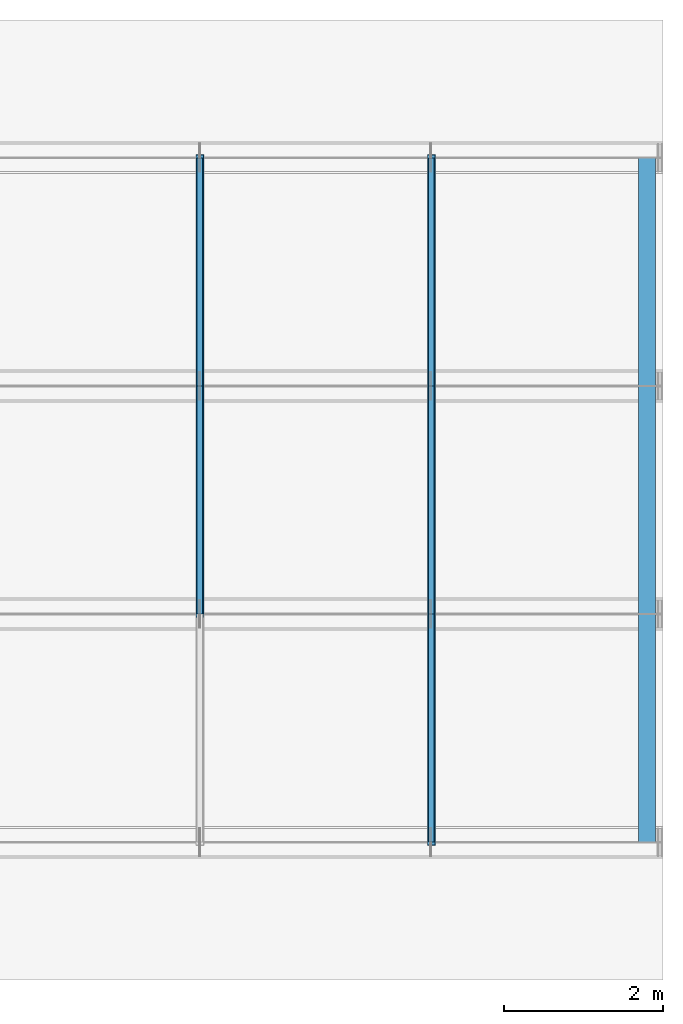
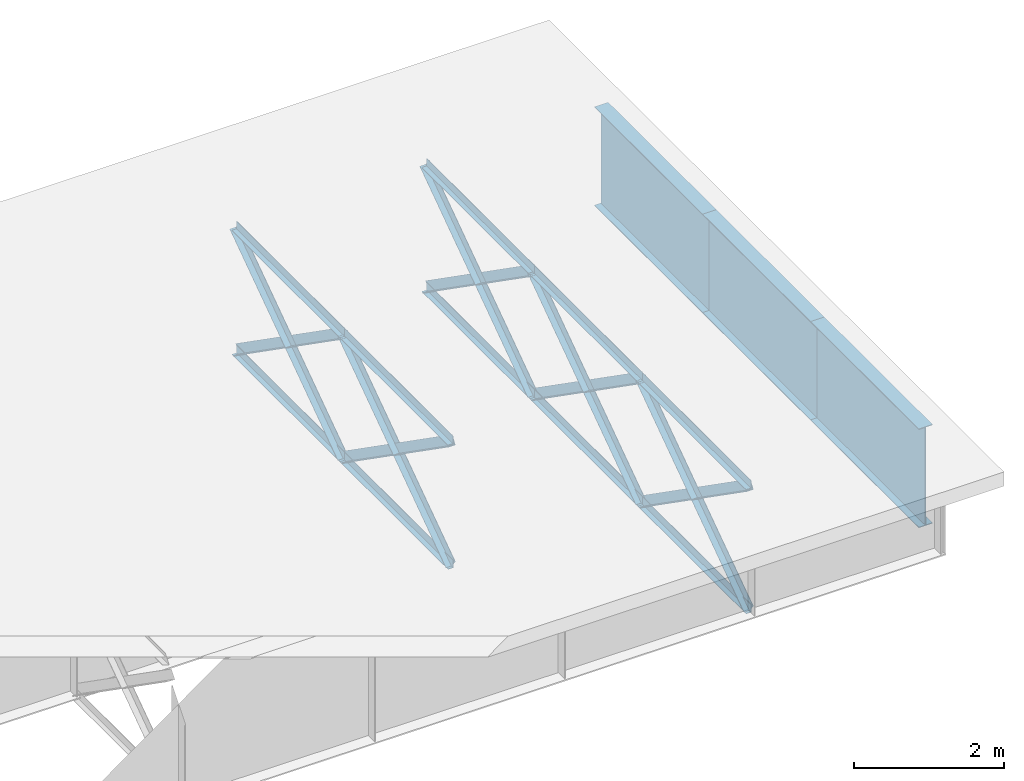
# One storey, part 2 of 13: 23 members.
"""IFC4 building model written with IfcOpenShell, lengths in metres."""

from ifc_helpers import new_model, si_unit, frame, origin, origin_with_axes, origin_2d_with_axis, place, context, subcontext, project, spatial, i_section, l_section, extrude, element, save


model = new_model("IFC4")

# Units and contexts
model_context = context("Model", 3, precision=1e-05, world=origin())
body_context = subcontext(model_context, "Body", "Model", "MODEL_VIEW")
ifc_project = project(units=[si_unit("LENGTHUNIT", "METRE"), si_unit("AREAUNIT", "SQUARE_METRE"), si_unit("VOLUMEUNIT", "CUBIC_METRE"), si_unit("PLANEANGLEUNIT", "RADIAN")], contexts=[model_context])

# Site, building, storey
site_placement = place(None, origin_with_axes())
site = spatial("IfcSite", under=ifc_project, at=site_placement, Name="Default Site")
building_placement = place(site_placement, origin_with_axes())
building = spatial("IfcBuilding", under=site, at=building_placement, Name="Bridge Structure")
storey_placement = place(building_placement, origin_with_axes())
storey = spatial("IfcBuildingStorey", under=building, at=storey_placement, Name="Superstructure")

# Members
for number, where, z_axis, x_axis, name in (
    (1, (29.166666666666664, -1.4375, 1.006), (0.0, 0.8192988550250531, -0.5733667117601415), (-1.0, 0.0, 0.0), "Diagonal Brace"),
    (2, (29.166666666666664, -1.4375, -1.006), (0.0, 0.8192988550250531, 0.5733667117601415), (-1.0, 0.0, 0.0), "Diagonal Brace"),
):
    element("IfcMember", number, at=place(storey_placement, frame(where, z_axis=z_axis, x_axis=x_axis)), inside=storey, Name=name, context=body_context, shape_type="SweptSolid", body=[
        extrude(l_section(Depth=0.15, Width=0.1, Thickness=0.008, at=origin_2d_with_axis()), origin_with_axes(), (0.0, 0.0, 1.0), 3.5090980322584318),
    ])
for number, where, z_axis, x_axis, name in (
    (3, (29.166666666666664, -1.4375, -1.006), (0.0, 1.0, 0.0), (-1.0, 0.0, 0.0), "Bottom Chord"),
    (4, (29.166666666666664, -1.4375, 1.006), (0.0, 1.0, 0.0), (-1.0, 0.0, 0.0), "Top Chord"),
):
    element("IfcMember", number, at=place(storey_placement, frame(where, z_axis=z_axis, x_axis=x_axis)), inside=storey, Name=name, context=body_context, shape_type="SweptSolid", body=[
        extrude(l_section(Depth=0.13, Width=0.08, Thickness=0.008, at=origin_2d_with_axis()), origin_with_axes(), (0.0, 0.0, 1.0), 2.875),
    ])
for number, where, z_axis, x_axis, name in (
    (5, (29.166666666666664, 1.4375, 1.006), (0.0, 0.8192988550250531, -0.5733667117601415), (-1.0, 0.0, 0.0), "Diagonal Brace"),
    (6, (29.166666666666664, 1.4375, -1.006), (0.0, 0.8192988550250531, 0.5733667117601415), (-1.0, 0.0, 0.0), "Diagonal Brace"),
):
    element("IfcMember", number, at=place(storey_placement, frame(where, z_axis=z_axis, x_axis=x_axis)), inside=storey, Name=name, context=body_context, shape_type="SweptSolid", body=[
        extrude(l_section(Depth=0.15, Width=0.1, Thickness=0.008, at=origin_2d_with_axis()), origin_with_axes(), (0.0, 0.0, 1.0), 3.5090980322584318),
    ])
for number, where, z_axis, x_axis, name in (
    (7, (29.166666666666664, 1.4375, -1.006), (0.0, 1.0, 0.0), (-1.0, 0.0, 0.0), "Bottom Chord"),
    (8, (29.166666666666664, 1.4375, 1.006), (0.0, 1.0, 0.0), (-1.0, 0.0, 0.0), "Top Chord"),
):
    element("IfcMember", number, at=place(storey_placement, frame(where, z_axis=z_axis, x_axis=x_axis)), inside=storey, Name=name, context=body_context, shape_type="SweptSolid", body=[
        extrude(l_section(Depth=0.13, Width=0.08, Thickness=0.008, at=origin_2d_with_axis()), origin_with_axes(), (0.0, 0.0, 1.0), 2.875),
    ])
for number, where, z_axis, x_axis, name in (
    (9, (32.083333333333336, -4.3125, 1.006), (0.0, 0.8192988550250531, -0.5733667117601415), (-1.0, 0.0, 0.0), "Diagonal Brace"),
    (10, (32.083333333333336, -4.3125, -1.006), (0.0, 0.8192988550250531, 0.5733667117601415), (-1.0, 0.0, 0.0), "Diagonal Brace"),
):
    element("IfcMember", number, at=place(storey_placement, frame(where, z_axis=z_axis, x_axis=x_axis)), inside=storey, Name=name, context=body_context, shape_type="SweptSolid", body=[
        extrude(l_section(Depth=0.15, Width=0.1, Thickness=0.008, at=origin_2d_with_axis()), origin_with_axes(), (0.0, 0.0, 1.0), 3.5090980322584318),
    ])
for number, where, z_axis, x_axis, name in (
    (11, (32.083333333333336, -4.3125, -1.006), (0.0, 1.0, 0.0), (-1.0, 0.0, 0.0), "Bottom Chord"),
    (12, (32.083333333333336, -4.3125, 1.006), (0.0, 1.0, 0.0), (-1.0, 0.0, 0.0), "Top Chord"),
):
    element("IfcMember", number, at=place(storey_placement, frame(where, z_axis=z_axis, x_axis=x_axis)), inside=storey, Name=name, context=body_context, shape_type="SweptSolid", body=[
        extrude(l_section(Depth=0.13, Width=0.08, Thickness=0.008, at=origin_2d_with_axis()), origin_with_axes(), (0.0, 0.0, 1.0), 2.875),
    ])
for number, where, z_axis, x_axis, name in (
    (13, (32.083333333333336, -1.4375, 1.006), (0.0, 0.8192988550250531, -0.5733667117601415), (-1.0, 0.0, 0.0), "Diagonal Brace"),
    (14, (32.083333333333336, -1.4375, -1.006), (0.0, 0.8192988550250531, 0.5733667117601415), (-1.0, 0.0, 0.0), "Diagonal Brace"),
):
    element("IfcMember", number, at=place(storey_placement, frame(where, z_axis=z_axis, x_axis=x_axis)), inside=storey, Name=name, context=body_context, shape_type="SweptSolid", body=[
        extrude(l_section(Depth=0.15, Width=0.1, Thickness=0.008, at=origin_2d_with_axis()), origin_with_axes(), (0.0, 0.0, 1.0), 3.5090980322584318),
    ])
for number, where, z_axis, x_axis, name in (
    (15, (32.083333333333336, -1.4375, -1.006), (0.0, 1.0, 0.0), (-1.0, 0.0, 0.0), "Bottom Chord"),
    (16, (32.083333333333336, -1.4375, 1.006), (0.0, 1.0, 0.0), (-1.0, 0.0, 0.0), "Top Chord"),
):
    element("IfcMember", number, at=place(storey_placement, frame(where, z_axis=z_axis, x_axis=x_axis)), inside=storey, Name=name, context=body_context, shape_type="SweptSolid", body=[
        extrude(l_section(Depth=0.13, Width=0.08, Thickness=0.008, at=origin_2d_with_axis()), origin_with_axes(), (0.0, 0.0, 1.0), 2.875),
    ])
for number, where, z_axis, x_axis, name in (
    (17, (32.083333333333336, 1.4375, 1.006), (0.0, 0.8192988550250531, -0.5733667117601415), (-1.0, 0.0, 0.0), "Diagonal Brace"),
    (18, (32.083333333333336, 1.4375, -1.006), (0.0, 0.8192988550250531, 0.5733667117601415), (-1.0, 0.0, 0.0), "Diagonal Brace"),
):
    element("IfcMember", number, at=place(storey_placement, frame(where, z_axis=z_axis, x_axis=x_axis)), inside=storey, Name=name, context=body_context, shape_type="SweptSolid", body=[
        extrude(l_section(Depth=0.15, Width=0.1, Thickness=0.008, at=origin_2d_with_axis()), origin_with_axes(), (0.0, 0.0, 1.0), 3.5090980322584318),
    ])
for number, where, z_axis, x_axis, name in (
    (19, (32.083333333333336, 1.4375, -1.006), (0.0, 1.0, 0.0), (-1.0, 0.0, 0.0), "Bottom Chord"),
    (20, (32.083333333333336, 1.4375, 1.006), (0.0, 1.0, 0.0), (-1.0, 0.0, 0.0), "Top Chord"),
):
    element("IfcMember", number, at=place(storey_placement, frame(where, z_axis=z_axis, x_axis=x_axis)), inside=storey, Name=name, context=body_context, shape_type="SweptSolid", body=[
        extrude(l_section(Depth=0.13, Width=0.08, Thickness=0.008, at=origin_2d_with_axis()), origin_with_axes(), (0.0, 0.0, 1.0), 2.875),
    ])
for number, where, z_axis, x_axis, name in (
    (21, (34.800000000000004, -4.3125, 0.2015), (0.0, 1.0, 0.0), (-1.0, 0.0, 0.0), "End Diaphragm"),
    (22, (34.800000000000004, -1.4375, 0.2015), (0.0, 1.0, 0.0), (-1.0, 0.0, 0.0), "End Diaphragm"),
    (23, (34.800000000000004, 1.4375, 0.2015), (0.0, 1.0, 0.0), (-1.0, 0.0, 0.0), "End Diaphragm"),
):
    element("IfcMember", number, at=place(storey_placement, frame(where, z_axis=z_axis, x_axis=x_axis)), inside=storey, Name=name, context=body_context, shape_type="SweptSolid", body=[
        extrude(i_section(OverallWidth=0.21, OverallDepth=1.609, WebThickness=0.014, FlangeThickness=0.012, at=origin_2d_with_axis()), origin_with_axes(), (0.0, 0.0, 1.0), 2.875),
    ])

save(model, "model.ifc")
